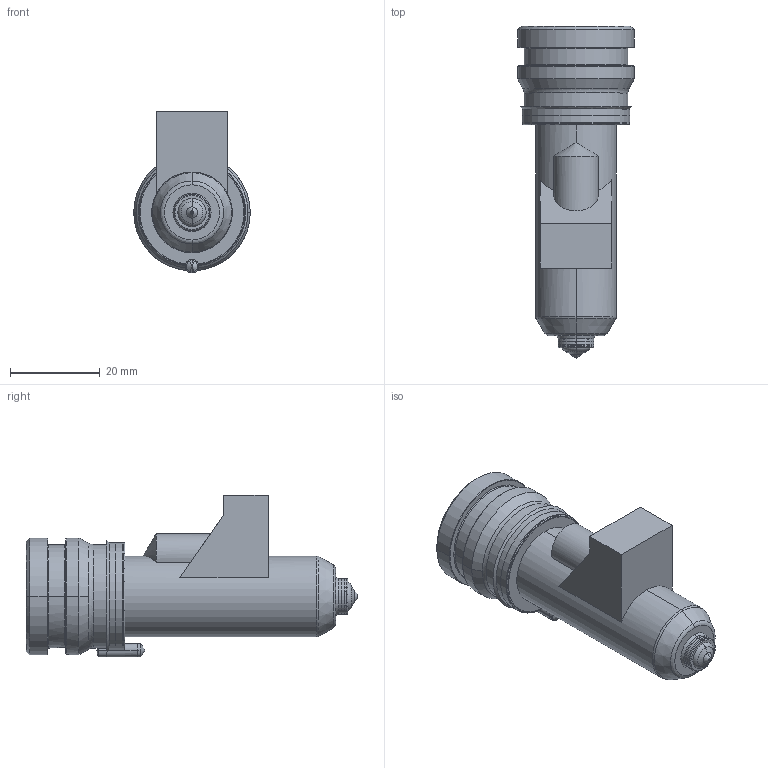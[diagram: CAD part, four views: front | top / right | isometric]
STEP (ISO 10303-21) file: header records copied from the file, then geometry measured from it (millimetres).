
FILE_DESCRIPTION((''),'2;1');
FILE_NAME('TH18056-M-1-PK-JG','2023-12-14T',('umhib'),('Thermoplay S.p.A.'),'PRO/ENGINEER BY PARAMETRIC TECHNOLOGY CORPORATION, 2017170','PRO/ENGINEER BY PARAMETRIC TECHNOLOGY CORPORATION, 2017170','');
FILE_SCHEMA(('CONFIG_CONTROL_DESIGN'));
Length unit declared in the file: millimetre
Products named in the file (1): TH18056-M-1-PK-JG
Bounding box: 26 x 74 x 36.1 mm (x, y, z)
Volume: 17041.1 mm3; surface area: 13370.4 mm2
Topology: 1 solids, 2 shells, 391 faces, 999 edges, 613 vertices
Faces by surface type: cylinder 149, plane 87, cone 62, torus 58, bspline 22, sphere 11, extrusion 2
Entity records: 16798 total; most frequent: CARTESIAN_POINT 5170, DIRECTION 2000, ORIENTED_EDGE 1972, EDGE_CURVE 988, AXIS2_PLACEMENT_3D 806, VERTEX_POINT 613, CIRCLE 438, EDGE_LOOP 414
